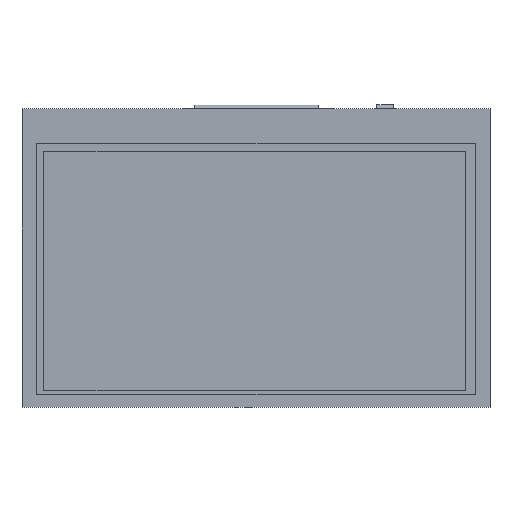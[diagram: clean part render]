
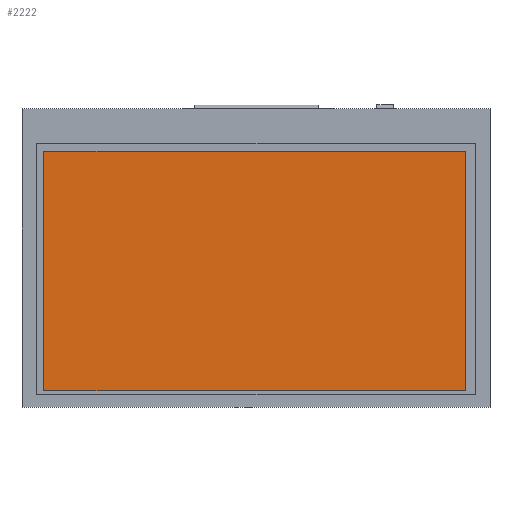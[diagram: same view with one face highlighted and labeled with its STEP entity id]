
A CAD part, top view. The second image highlights one B-rep face of the part: STEP entity #2222.
In plain terms, the highlighted planar face has unit normal (0, 0, 1).
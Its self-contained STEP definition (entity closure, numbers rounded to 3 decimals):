
#2222=ADVANCED_FACE('',(#2770),#2495,.T.);
#2495=PLANE('',#7042);
#2770=FACE_OUTER_BOUND('',#3054,.T.);
#3054=EDGE_LOOP('',(#4126,#4127,#4128,#4129));
#4126=ORIENTED_EDGE('',*,*,#5202,.T.);
#4127=ORIENTED_EDGE('',*,*,#5206,.T.);
#4128=ORIENTED_EDGE('',*,*,#5209,.T.);
#4129=ORIENTED_EDGE('',*,*,#5211,.T.);
#4632=VERTEX_POINT('',#9388);
#4633=VERTEX_POINT('',#9390);
#4635=VERTEX_POINT('',#9396);
#4637=VERTEX_POINT('',#9402);
#5202=EDGE_CURVE('',#4633,#4632,#5782,.T.);
#5206=EDGE_CURVE('',#4632,#4635,#5786,.T.);
#5209=EDGE_CURVE('',#4635,#4637,#5789,.T.);
#5211=EDGE_CURVE('',#4637,#4633,#5791,.T.);
#5782=LINE('',#9389,#6349);
#5786=LINE('',#9397,#6353);
#5789=LINE('',#9403,#6356);
#5791=LINE('',#9406,#6358);
#6349=VECTOR('',#8112,1.);
#6353=VECTOR('',#8118,1.);
#6356=VECTOR('',#8123,1.);
#6358=VECTOR('',#8127,1.);
#7042=AXIS2_PLACEMENT_3D('',#9408,#8130,#8131);
#8112=DIRECTION('',(0.,-1.,0.));
#8118=DIRECTION('',(1.,0.,0.));
#8123=DIRECTION('',(0.,1.,0.));
#8127=DIRECTION('',(-1.,0.,0.));
#8130=DIRECTION('',(0.,0.,1.));
#8131=DIRECTION('',(-1.,0.,0.));
#9388=CARTESIAN_POINT('',(-35.48,-28.07,3.55));
#9389=CARTESIAN_POINT('',(-35.48,25.79,3.55));
#9390=CARTESIAN_POINT('',(-35.48,25.79,3.55));
#9396=CARTESIAN_POINT('',(59.56,-28.07,3.55));
#9397=CARTESIAN_POINT('',(-35.48,-28.07,3.55));
#9402=CARTESIAN_POINT('',(59.56,25.79,3.55));
#9403=CARTESIAN_POINT('',(59.56,-28.07,3.55));
#9406=CARTESIAN_POINT('',(59.56,25.79,3.55));
#9408=CARTESIAN_POINT('',(0.,0.,3.55));
